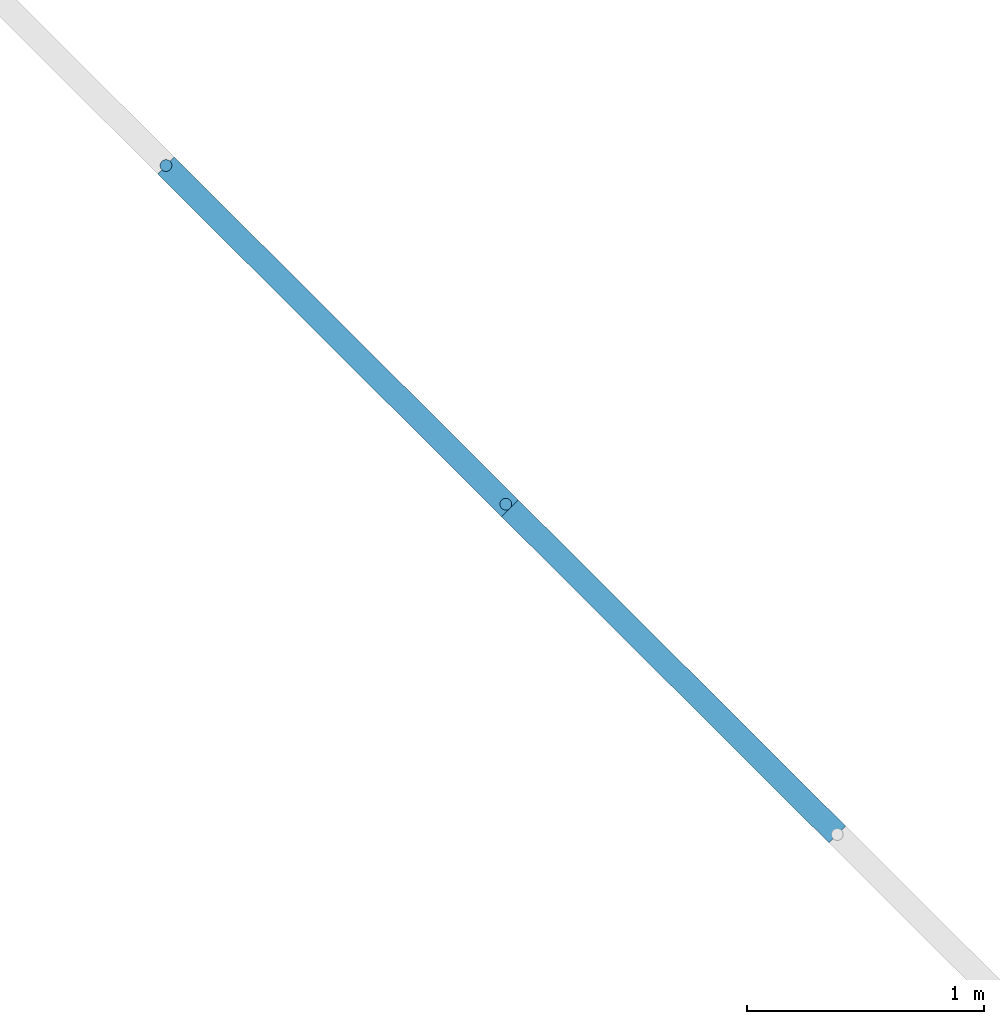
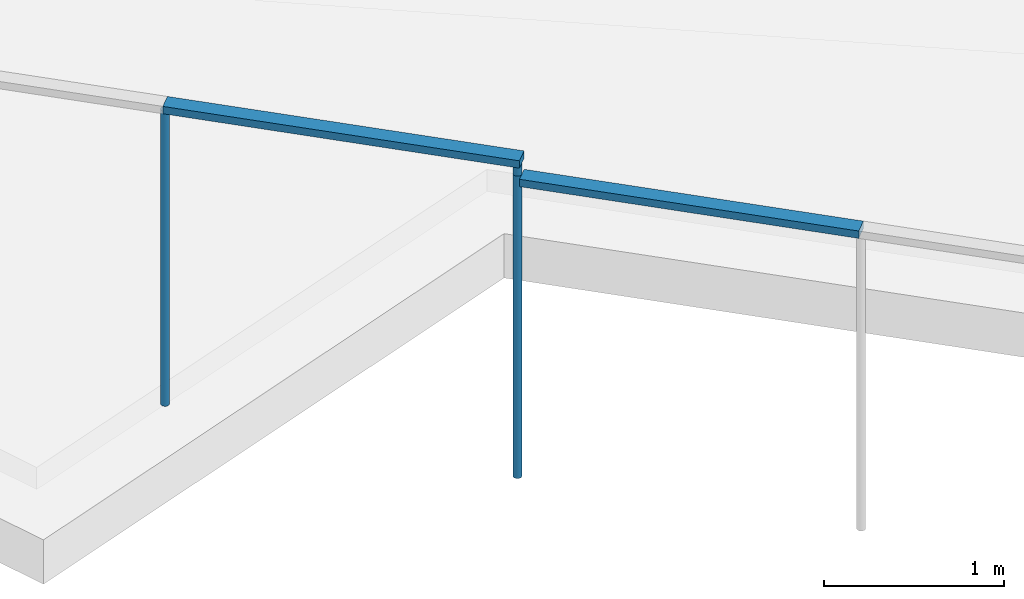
# One storey, part 12 of 33: 5 members, 2 elements without a shape of their own.
"""IFC2X3 building model written with IfcOpenShell, lengths in metres."""

from ifc_helpers import new_model, entity, si_unit, converted_unit, derived_unit, direction, frame, frame_2d, origin, origin_2d_with_axis, place, context, subcontext, project, spatial, rectangle, circle, extrude, source, transform, mapped, material, type_object, type_shapes, element, aggregate, save


model = new_model("IFC2X3")

# Units and contexts
model_context = context("Model", 3, precision=1e-05, world=origin(), true_north=direction((6.123031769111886e-17, 1.0)))
body_context = subcontext(model_context, "Body", "Model", "MODEL_VIEW")
ifc_project = project(units=[si_unit("LENGTHUNIT", "METRE"), si_unit("AREAUNIT", "SQUARE_METRE"), si_unit("VOLUMEUNIT", "CUBIC_METRE"), converted_unit("PLANEANGLEUNIT", "DEGREE", entity("IfcRatioMeasure", 0.017453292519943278), si_unit("PLANEANGLEUNIT", "RADIAN"), dimensions=[0, 0, 0, 0, 0, 0, 0]), si_unit("MASSUNIT", "GRAM", prefix="KILO"), derived_unit("MASSDENSITYUNIT", [(si_unit("MASSUNIT", "GRAM", prefix="KILO"), 1), (si_unit("LENGTHUNIT", "METRE"), -3)]), derived_unit("IONCONCENTRATIONUNIT", [(si_unit("MASSUNIT", "GRAM", prefix="KILO"), 1), (si_unit("LENGTHUNIT", "METRE"), -3)]), derived_unit("MOMENTOFINERTIAUNIT", [(si_unit("LENGTHUNIT", "METRE"), 4)]), si_unit("TIMEUNIT", "SECOND"), si_unit("FREQUENCYUNIT", "HERTZ"), si_unit("THERMODYNAMICTEMPERATUREUNIT", "DEGREE_CELSIUS"), derived_unit("THERMALTRANSMITTANCEUNIT", [(si_unit("MASSUNIT", "GRAM", prefix="KILO"), 1), (si_unit("THERMODYNAMICTEMPERATUREUNIT", "KELVIN"), -1), (si_unit("TIMEUNIT", "SECOND"), -3)]), derived_unit("THERMALCONDUCTANCEUNIT", [(si_unit("MASSUNIT", "GRAM", prefix="KILO"), 1), (si_unit("THERMODYNAMICTEMPERATUREUNIT", "KELVIN"), -1), (si_unit("TIMEUNIT", "SECOND"), -3), (si_unit("LENGTHUNIT", "METRE"), 1)]), derived_unit("VOLUMETRICFLOWRATEUNIT", [(si_unit("LENGTHUNIT", "METRE"), 3), (si_unit("TIMEUNIT", "SECOND"), -1)]), derived_unit("MASSFLOWRATEUNIT", [(si_unit("MASSUNIT", "GRAM", prefix="KILO"), 1), (si_unit("TIMEUNIT", "SECOND"), -1)]), derived_unit("ROTATIONALFREQUENCYUNIT", [(si_unit("TIMEUNIT", "SECOND"), -1)]), si_unit("ELECTRICCURRENTUNIT", "AMPERE"), si_unit("ELECTRICVOLTAGEUNIT", "VOLT"), si_unit("POWERUNIT", "WATT"), si_unit("FORCEUNIT", "NEWTON", prefix="KILO"), si_unit("ILLUMINANCEUNIT", "LUX"), si_unit("LUMINOUSFLUXUNIT", "LUMEN"), si_unit("LUMINOUSINTENSITYUNIT", "CANDELA"), derived_unit("USERDEFINED", [(si_unit("MASSUNIT", "GRAM", prefix="KILO"), -1), (si_unit("LENGTHUNIT", "METRE"), -2), (si_unit("TIMEUNIT", "SECOND"), 3), (si_unit("LUMINOUSFLUXUNIT", "LUMEN"), 1)]), derived_unit("USERDEFINED", [(si_unit("MASSUNIT", "GRAM", prefix="KILO"), 1), (si_unit("TIMEUNIT", "SECOND"), -3), (si_unit("LENGTHUNIT", "METRE"), 3), (si_unit("ELECTRICCURRENTUNIT", "AMPERE"), -2)]), derived_unit("SOUNDPOWERUNIT", [(si_unit("MASSUNIT", "GRAM", prefix="KILO"), 1), (si_unit("TIMEUNIT", "SECOND"), -3), (si_unit("LENGTHUNIT", "METRE"), 2)]), derived_unit("SOUNDPRESSUREUNIT", [(si_unit("MASSUNIT", "GRAM", prefix="KILO"), 1), (si_unit("LENGTHUNIT", "METRE"), -1), (si_unit("TIMEUNIT", "SECOND"), -2)]), derived_unit("LINEARVELOCITYUNIT", [(si_unit("LENGTHUNIT", "METRE"), 1), (si_unit("TIMEUNIT", "SECOND"), -1)]), si_unit("PRESSUREUNIT", "PASCAL"), derived_unit("USERDEFINED", [(si_unit("MASSUNIT", "GRAM", prefix="KILO"), 1), (si_unit("LENGTHUNIT", "METRE"), -2), (si_unit("TIMEUNIT", "SECOND"), -2)]), derived_unit("LINEARFORCEUNIT", [(si_unit("MASSUNIT", "GRAM", prefix="KILO"), 1), (si_unit("TIMEUNIT", "SECOND"), -2)]), derived_unit("PLANARFORCEUNIT", [(si_unit("MASSUNIT", "GRAM", prefix="KILO"), 1), (si_unit("LENGTHUNIT", "METRE"), -1), (si_unit("TIMEUNIT", "SECOND"), -2)]), derived_unit("SPECIFICHEATCAPACITYUNIT", [(si_unit("THERMODYNAMICTEMPERATUREUNIT", "KELVIN"), -1), (si_unit("LENGTHUNIT", "METRE"), 2), (si_unit("TIMEUNIT", "SECOND"), -2)]), derived_unit("HEATINGVALUEUNIT", [(si_unit("LENGTHUNIT", "METRE"), 2), (si_unit("TIMEUNIT", "SECOND"), -2)]), derived_unit("VAPORPERMEABILITYUNIT", [(si_unit("LENGTHUNIT", "METRE"), -1), (si_unit("TIMEUNIT", "SECOND"), 1)]), derived_unit("DYNAMICVISCOSITYUNIT", [(si_unit("MASSUNIT", "GRAM", prefix="KILO"), 1), (si_unit("TIMEUNIT", "SECOND"), -1), (si_unit("LENGTHUNIT", "METRE"), -1)]), derived_unit("THERMALEXPANSIONCOEFFICIENTUNIT", [(si_unit("THERMODYNAMICTEMPERATUREUNIT", "KELVIN"), -1)]), derived_unit("MODULUSOFELASTICITYUNIT", [(si_unit("MASSUNIT", "GRAM", prefix="KILO"), 1), (si_unit("LENGTHUNIT", "METRE"), -1), (si_unit("TIMEUNIT", "SECOND"), -2)]), derived_unit("ISOTHERMALMOISTURECAPACITYUNIT", [(si_unit("LENGTHUNIT", "METRE"), 3), (si_unit("MASSUNIT", "GRAM", prefix="KILO"), -1)]), derived_unit("MOISTUREDIFFUSIVITYUNIT", [(si_unit("TIMEUNIT", "SECOND"), -1), (si_unit("LENGTHUNIT", "METRE"), 2)])], contexts=[model_context])

# Site, building, storey
site_placement = place(None, origin())
site = spatial("IfcSite", under=ifc_project, at=site_placement, Name="Superficie", CompositionType="ELEMENT")
building_placement = place(site_placement, frame((0.0, 0.0, 235.0), z_axis=(0.0, 0.0, 1.0), x_axis=(-0.7996477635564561, 0.6004693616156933, 0.0)))
building = spatial("IfcBuilding", under=site, at=building_placement, CompositionType="ELEMENT")
storey_placement = place(building_placement, origin())
storey = spatial("IfcBuildingStorey", under=building, at=storey_placement, Name="P0- Escola", CompositionType="ELEMENT", Elevation=0.0)

# Curtain wall, members
curtain_wall_type = type_object("IfcCurtainWallType", Name="Muro cortina:SER EXT- Tanca exterior", PredefinedType="NOTDEFINED")
curtain_wall_1_placement = place(storey_placement, origin())
curtain_wall_1 = element("IfcCurtainWall", 1, at=curtain_wall_1_placement, inside=storey, type_object=curtain_wall_type, Name="Muro cortina:SER EXT- Tanca exterior", ObjectType="Muro cortina:SER EXT- Tanca exterior")
ifc_material_1 = material(Name="Acero inoxidable")
member_type_1 = type_object("IfcMemberType", Name="Montante circular:Perfil Tanca exterior", PredefinedType="MULLION", material=ifc_material_1)
shared_shape_1 = source(origin(), body_context, "Body", "SweptSolid", [
    extrude(circle(Radius=0.025, at=frame_2d((-2.1149748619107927e-18, -4.0388614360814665e-17), x_axis=(1.0, 0.0))), frame((0.0, 0.0, -2.0), z_axis=(0.0, 0.0, 1.0), x_axis=(-1.0, 0.0, 0.0)), (0.0, 0.0, 1.0), 1.9999999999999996),
])
type_shapes(member_type_1, [shared_shape_1])
member_1_placement = place(curtain_wall_1_placement, frame((56.7389611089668, -10.499613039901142, 2.47), z_axis=(0.0, 0.0, -1.0), x_axis=(0.9902804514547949, -0.13908496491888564, 0.0)))
member_1 = element("IfcMember", 2, at=member_1_placement, type_object=member_type_1, material=ifc_material_1, Name="Montante circular:Perfil Tanca exterior", ObjectType="Montante circular:Perfil Tanca exterior", context=body_context, shape_type="MappedRepresentation", body=[
    mapped(shared_shape_1, transform((0.0, 0.0, 0.0), scale=1.0)),
])
member_type_2 = type_object("IfcMemberType", Name="Montante circular:Perfil Tanca exterior", PredefinedType="MULLION", material=ifc_material_1)
shared_shape_2 = source(origin(), body_context, "Body", "SweptSolid", [
    extrude(circle(Radius=0.025, at=frame_2d((-1.304992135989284e-31, 4.038861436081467e-17), x_axis=(1.0, 0.0))), frame((-0.025, 0.0, -2.0)), (0.0, 0.0, 1.0), 1.9999999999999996),
])
type_shapes(member_type_2, [shared_shape_2])
member_2_placement = place(curtain_wall_1_placement, frame((54.70888619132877, -10.214488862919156, 4.47), z_axis=(0.0, 0.0, 1.0), x_axis=(-0.9902804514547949, 0.13908496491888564, 0.0)))
member_2 = element("IfcMember", 3, at=member_2_placement, type_object=member_type_2, material=ifc_material_1, Name="Montante circular:Perfil Tanca exterior", ObjectType="Montante circular:Perfil Tanca exterior", context=body_context, shape_type="MappedRepresentation", body=[
    mapped(shared_shape_2, transform((0.0, 0.0, 0.0), scale=1.0)),
])
ifc_material_2 = material(Name="_Formigó- Solera- T1- STR")
member_type_3 = type_object("IfcMemberType", Name="Montante rectangular:Montante rectangular 100x50", PredefinedType="MULLION", material=ifc_material_2)
shared_shape_3 = source(origin(), body_context, "Body", "SweptSolid", [
    extrude(rectangle(XDim=0.1, YDim=0.05000000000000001, at=origin_2d_with_axis()), frame((-0.025000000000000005, 0.0, -2.0499999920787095), z_axis=(0.0, 0.0, 1.0), x_axis=(0.0, -1.0, 0.0)), (0.0, 0.0, 1.0), 2.04999999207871),
])
type_shapes(member_type_3, [shared_shape_3])
member_3_placement = place(curtain_wall_1_placement, frame((56.73896110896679, -10.49961303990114, 4.52), z_axis=(0.9902804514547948, -0.13908496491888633, 0.0), x_axis=(0.0, 0.0, 1.0)))
member_3 = element("IfcMember", 4, at=member_3_placement, type_object=member_type_3, material=ifc_material_2, Name="Montante rectangular:Montante rectangular 100x50", ObjectType="Montante rectangular:Montante rectangular 100x50", context=body_context, shape_type="MappedRepresentation", body=[
    mapped(shared_shape_3, transform((0.0, 0.0, 0.0), scale=1.0)),
])
aggregate(curtain_wall_1, [member_2, member_1, member_3])

curtain_wall_2_placement = place(storey_placement, origin())
curtain_wall_2 = element("IfcCurtainWall", 5, at=curtain_wall_2_placement, inside=storey, type_object=curtain_wall_type, Name="Muro cortina:SER EXT- Tanca exterior", ObjectType="Muro cortina:SER EXT- Tanca exterior")
member_type_4 = type_object("IfcMemberType", Name="Montante circular:Perfil Tanca exterior", PredefinedType="MULLION", material=ifc_material_1)
shared_shape_4 = source(origin(), body_context, "Body", "SweptSolid", [
    extrude(circle(Radius=0.025, at=frame_2d((1.3661718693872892e-31, -4.46185640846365e-17), x_axis=(1.0, 0.0))), frame((-0.025, 0.0, -2.0499999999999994), z_axis=(0.0, 0.0, 1.0), x_axis=(-1.0, 0.0, 0.0)), (0.0, 0.0, 1.0), 2.0499999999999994),
])
type_shapes(member_type_4, [shared_shape_4])
member_4_placement = place(curtain_wall_2_placement, frame((54.75840021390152, -10.221443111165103, 2.3449999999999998), z_axis=(0.0, 0.0, -1.0), x_axis=(0.9902804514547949, -0.1390849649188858, 0.0)))
member_4 = element("IfcMember", 6, at=member_4_placement, type_object=member_type_4, material=ifc_material_1, Name="Montante circular:Perfil Tanca exterior", ObjectType="Montante circular:Perfil Tanca exterior", context=body_context, shape_type="MappedRepresentation", body=[
    mapped(shared_shape_4, transform((0.0, 0.0, 0.0), scale=1.0)),
])
member_type_5 = type_object("IfcMemberType", Name="Montante rectangular:Montante rectangular 100x50", PredefinedType="MULLION", material=ifc_material_2)
shared_shape_5 = source(origin(), body_context, "Body", "SweptSolid", [
    extrude(rectangle(XDim=0.1, YDim=0.05000000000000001, at=origin_2d_with_axis()), frame((-0.025000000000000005, 0.0, -1.9499999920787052), z_axis=(0.0, 0.0, 1.0), x_axis=(0.0, -1.0, 0.0)), (0.0, 0.0, 1.0), 1.9499999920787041),
])
type_shapes(member_type_5, [shared_shape_5])
member_5_placement = place(curtain_wall_2_placement, frame((54.70888619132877, -10.214488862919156, 4.395), z_axis=(0.9902804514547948, -0.13908496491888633, 0.0), x_axis=(0.0, 0.0, 1.0)))
member_5 = element("IfcMember", 7, at=member_5_placement, type_object=member_type_5, material=ifc_material_2, Name="Montante rectangular:Montante rectangular 100x50", ObjectType="Montante rectangular:Montante rectangular 100x50", context=body_context, shape_type="MappedRepresentation", body=[
    mapped(shared_shape_5, transform((0.0, 0.0, 0.0), scale=1.0)),
])
aggregate(curtain_wall_2, [member_4, member_5])

save(model, "model.ifc")
